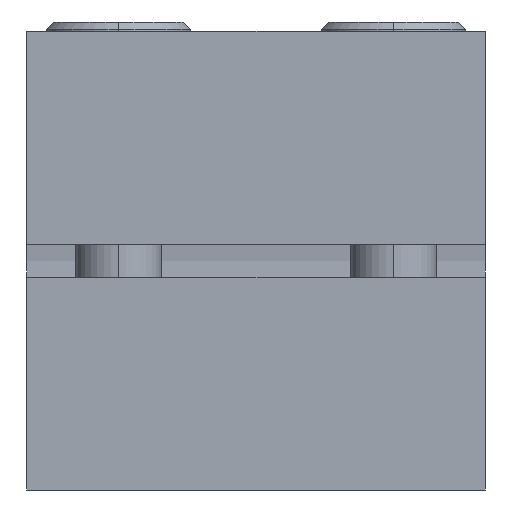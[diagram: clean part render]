
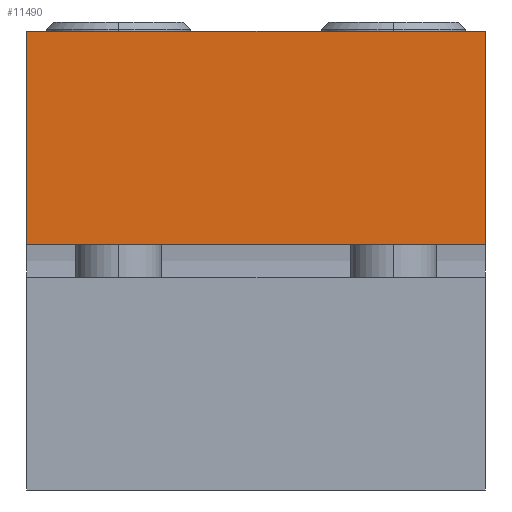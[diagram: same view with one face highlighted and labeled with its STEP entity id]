
A CAD part, left-side view. The second image highlights one B-rep face of the part: STEP entity #11490.
In plain terms, the highlighted planar face has unit normal (-1, 0, 0).
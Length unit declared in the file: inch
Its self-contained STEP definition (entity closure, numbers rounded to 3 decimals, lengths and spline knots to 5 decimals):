
#4354 = CARTESIAN_POINT ( 'NONE',  ( -2.3125, 0., 0.045 ) ) ;
#4363 = CARTESIAN_POINT ( 'NONE',  ( -2.3125, 1.25, 0.045 ) ) ;
#4384 = CARTESIAN_POINT ( 'NONE',  ( -2.3125, 0., 0.625 ) ) ;
#4403 = CARTESIAN_POINT ( 'NONE',  ( -2.3125, 1.25, 0.625 ) ) ;
#7844 = DIRECTION ( 'NONE',  ( 0., 0., 1. ) ) ;
#7845 = CARTESIAN_POINT ( 'NONE',  ( -2.3125, 0., 0.625 ) ) ;
#7846 = DIRECTION ( 'NONE',  ( 0., 1., 0. ) ) ;
#7847 = CARTESIAN_POINT ( 'NONE',  ( -2.3125, -0.00004, 0.045 ) ) ;
#7848 = DIRECTION ( 'NONE',  ( 0., 0., 1. ) ) ;
#7849 = CARTESIAN_POINT ( 'NONE',  ( -2.3125, 1.25, 0.625 ) ) ;
#8028 = DIRECTION ( 'NONE',  ( 0., 0., -1. ) ) ;
#8029 = DIRECTION ( 'NONE',  ( 1., 0., 0. ) ) ;
#8030 = CARTESIAN_POINT ( 'NONE',  ( -2.3125, 1.25, 0.625 ) ) ;
#8031 = PLANE ( 'NONE',  #25434 ) ;
#11490 = ADVANCED_FACE ( 'NONE', ( #25385 ), #8031, .F. ) ;
#12512 = VERTEX_POINT ( 'NONE', #4403 ) ;
#12530 = VERTEX_POINT ( 'NONE', #4384 ) ;
#12549 = VERTEX_POINT ( 'NONE', #4363 ) ;
#12558 = VERTEX_POINT ( 'NONE', #4354 ) ;
#15370 = EDGE_LOOP ( 'NONE', ( #21520, #21521, #21522, #21523 ) ) ;
#17816 = LINE ( 'NONE', #19112, #17817 ) ;
#17817 = VECTOR ( 'NONE', #19113, 39.37008 ) ;
#18392 = LINE ( 'NONE', #7849, #18393 ) ;
#18393 = VECTOR ( 'NONE', #7848, 39.37008 ) ;
#18394 = LINE ( 'NONE', #7847, #18395 ) ;
#18395 = VECTOR ( 'NONE', #7846, 39.37008 ) ;
#18396 = LINE ( 'NONE', #7845, #18397 ) ;
#18397 = VECTOR ( 'NONE', #7844, 39.37008 ) ;
#19112 = CARTESIAN_POINT ( 'NONE',  ( -2.3125, 1.25, 0.625 ) ) ;
#19113 = DIRECTION ( 'NONE',  ( 0., -1., 0. ) ) ;
#21520 = ORIENTED_EDGE ( 'NONE', *, *, #24284, .F. ) ;
#21521 = ORIENTED_EDGE ( 'NONE', *, *, #24285, .F. ) ;
#21522 = ORIENTED_EDGE ( 'NONE', *, *, #24286, .T. ) ;
#21523 = ORIENTED_EDGE ( 'NONE', *, *, #25022, .F. ) ;
#24284 = EDGE_CURVE ( 'NONE', #12549, #12512, #18392, .T. ) ;
#24285 = EDGE_CURVE ( 'NONE', #12558, #12549, #18394, .T. ) ;
#24286 = EDGE_CURVE ( 'NONE', #12558, #12530, #18396, .T. ) ;
#25022 = EDGE_CURVE ( 'NONE', #12512, #12530, #17816, .T. ) ;
#25385 = FACE_OUTER_BOUND ( 'NONE', #15370, .T. ) ;
#25434 = AXIS2_PLACEMENT_3D ( 'NONE', #8030, #8029, #8028 ) ;
